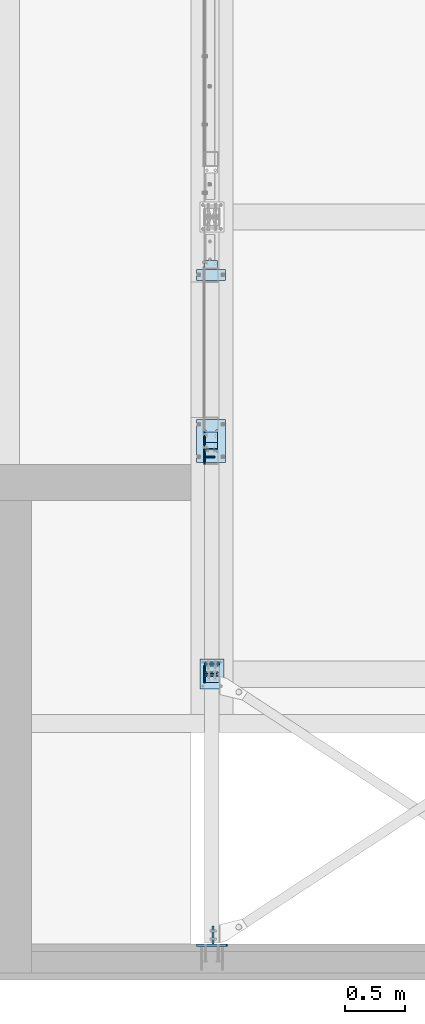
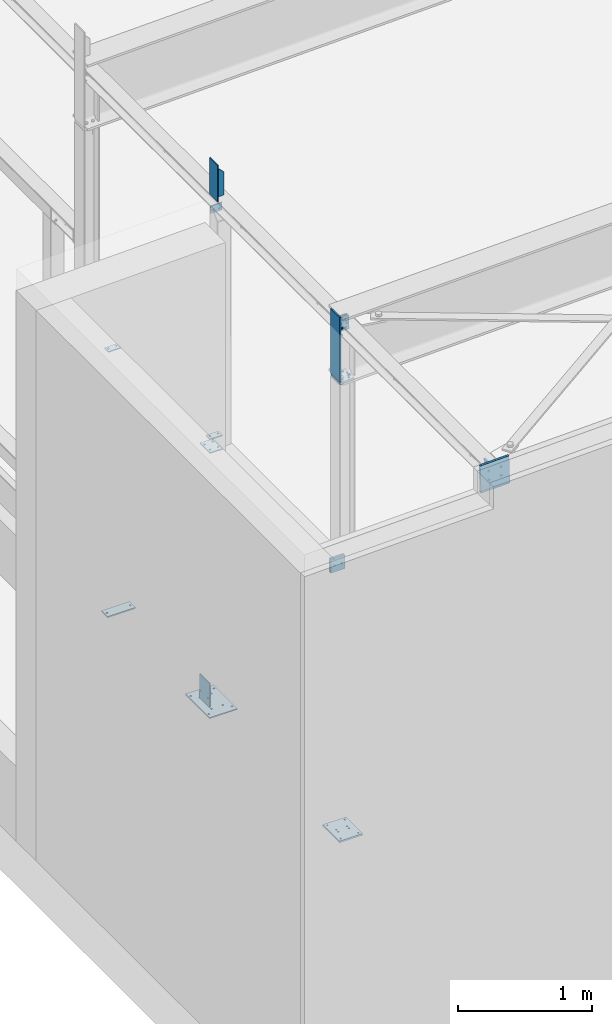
# One storey, part 33 of 476: 18 plates, 66 openings.
"""IFC2X3 building model written with IfcOpenShell, lengths in millimetres."""

from ifc_helpers import new_model, entity, si_unit, converted_unit, frame, frame_2d, origin, origin_with_axes, origin_2d_with_axis, place, context, project, spatial, polyline, circle, outline, extrude, material, layer, layer_set, element, save


model = new_model("IFC2X3")

# Units and contexts
model_context = context("Model", 3, precision=1e-09, world=origin_with_axes())
ifc_project = project(units=[si_unit("LENGTHUNIT", "METRE", prefix="MILLI"), si_unit("AREAUNIT", "SQUARE_METRE"), si_unit("VOLUMEUNIT", "CUBIC_METRE"), converted_unit("PLANEANGLEUNIT", "DEGREE", entity("IfcPlaneAngleMeasure", 0.01745329), si_unit("PLANEANGLEUNIT", "RADIAN"), dimensions=[0, 0, 0, 0, 0, 0, 0])], contexts=[model_context])

# Site, building, storey
site_placement = place(None, origin_with_axes())
site = spatial("IfcSite", under=ifc_project, at=site_placement, Name="mKR Teilneubau & Sanierung BA1 - Ostfildern", CompositionType="ELEMENT")
building_placement = place(site_placement, origin_with_axes())
building = spatial("IfcBuilding", under=site, at=building_placement, Name="Struktur 1", CompositionType="ELEMENT")
storey_placement = place(building_placement, origin_with_axes())
storey = spatial("IfcBuildingStorey", under=building, at=storey_placement, Name="Default Storey", CompositionType="ELEMENT", Elevation=0.0)

# Plate, openings
ifc_material = material(Name="S235JR")
ifc_layer_1 = layer(ifc_material, 10.0)
ifc_layer_set_1 = layer_set([ifc_layer_1], Name="S235JR")
plate_1_placement = place(None, frame((8215.108804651, -19270.674034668, 2969.000035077), z_axis=(0.0, 0.0, -1.0), x_axis=(0.0, -1.0, 0.0)))
plate_1 = element("IfcPlate", 1, at=plate_1_placement, inside=storey, material=ifc_layer_set_1, Name="Endplate", ObjectType="Endplate", context=model_context, shape_type="SweptSolid", body=[
    extrude(outline(polyline([(20.0, 2.5), (80.0, 2.5), (80.0, 109.5), (20.0, 109.5), (20.0, 2.5)])), origin_with_axes(), (0.0, 0.0, -1.0), 10.0),
])
opening_1_placement = place(plate_1_placement, frame((45.0, 56.0, 0.5), z_axis=(0.0, 0.0, -1.0), x_axis=(1.0, 0.0, 0.0)))
element("IfcOpeningElement", 2, at=opening_1_placement, cuts=plate_1, ObjectType="Opening", context=model_context, shape_type="SweptSolid", body=[
    extrude(circle(Radius=6.501, at=frame_2d((0.0, 35.0), x_axis=(1.0, 0.0))), origin(), (0.0, 0.0, 1.0), 11.0),
])
opening_2_placement = place(plate_1_placement, frame((45.0, 56.0, 0.5), z_axis=(0.0, 0.0, -1.0), x_axis=(1.0, 0.0, 0.0)))
element("IfcOpeningElement", 3, at=opening_2_placement, cuts=plate_1, ObjectType="Opening", context=model_context, shape_type="SweptSolid", body=[
    extrude(circle(Radius=6.501, at=frame_2d((0.0, -35.0), x_axis=(1.0, 0.0))), origin(), (0.0, 0.0, 1.0), 11.0),
])

plate_2_placement = place(None, frame((8189.108764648, -19405.674034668, 5412.548814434), z_axis=(0.0, -1.0, 0.0), x_axis=(-1.0, 0.0, 0.0)))
plate_2 = element("IfcPlate", 4, at=plate_2_placement, inside=storey, material=ifc_layer_set_1, Name="-", ObjectType="-", context=model_context, shape_type="SweptSolid", body=[
    extrude(outline(polyline([(0.0, -59.999982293), (80.0, -59.999982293), (80.0, 200.0), (0.0, 197.595559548), (0.0, -59.999982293)])), origin_with_axes(), (0.0, 0.0, 1.0), 10.0),
])
opening_3_placement = place(plate_2_placement, frame((0.0, 0.0, -0.01), z_axis=(0.0, 0.0, 1.0), x_axis=(1.0, 0.0, 0.0)))
element("IfcOpeningElement", 5, at=opening_3_placement, cuts=plate_2, ObjectType="Opening", context=model_context, shape_type="SweptSolid", body=[
    extrude(outline(polyline([(80.0, 200.0), (60.009027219, 199.399161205), (80.0, 180.0), (80.0, 200.0)])), origin(), (0.0, 0.0, 1.0), 10.02),
])
opening_4_placement = place(plate_2_placement, frame((0.0, 0.0, -0.01), z_axis=(0.0, 0.0, 1.0), x_axis=(1.0, 0.0, 0.0)))
element("IfcOpeningElement", 6, at=opening_4_placement, cuts=plate_2, ObjectType="Opening", context=model_context, shape_type="SweptSolid", body=[
    extrude(outline(polyline([(0.0, -59.999982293), (50.0, -59.999982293), (0.0, -9.999982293), (0.0, -59.999982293)])), origin(), (0.0, 0.0, 1.0), 10.02),
])

ifc_layer_2 = layer(ifc_material, 20.0)
ifc_layer_set_2 = layer_set([ifc_layer_2], Name="S235JR")
plate_3_placement = place(None, frame((8038.201761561, -23499.31640625, 5270.428957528), z_axis=(0.0, 1.0, 0.0), x_axis=(0.999548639, 0.0, 0.030041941)))
plate_3 = element("IfcPlate", 7, at=plate_3_placement, inside=storey, material=ifc_layer_set_2, Name="-", ObjectType="-", context=model_context, shape_type="SweptSolid", body=[
    extrude(outline(polyline([(0.0, 0.0), (250.0, 0.0), (250.0, 250.0), (0.0, 250.0), (0.0, 0.0)])), origin_with_axes(), (0.0, 0.0, 1.0), 20.0),
])
opening_5_placement = place(plate_3_placement, frame((72.0, 152.0, 20.5), z_axis=(0.0, 0.0, -1.0), x_axis=(1.0, 0.0, 0.0)))
element("IfcOpeningElement", 8, at=opening_5_placement, cuts=plate_3, ObjectType="Opening", context=model_context, shape_type="SweptSolid", body=[
    extrude(circle(Radius=8.501, at=origin_2d_with_axis()), origin(), (0.0, 0.0, 1.0), 21.0),
])
opening_6_placement = place(plate_3_placement, frame((178.0, 152.0, 20.5), z_axis=(0.0, 0.0, -1.0), x_axis=(1.0, 0.0, 0.0)))
element("IfcOpeningElement", 9, at=opening_6_placement, cuts=plate_3, ObjectType="Opening", context=model_context, shape_type="SweptSolid", body=[
    extrude(circle(Radius=8.501, at=origin_2d_with_axis()), origin(), (0.0, 0.0, 1.0), 21.0),
])
opening_7_placement = place(plate_3_placement, frame((178.0, 72.0, 20.5), z_axis=(0.0, 0.0, -1.0), x_axis=(1.0, 0.0, 0.0)))
element("IfcOpeningElement", 10, at=opening_7_placement, cuts=plate_3, ObjectType="Opening", context=model_context, shape_type="SweptSolid", body=[
    extrude(circle(Radius=8.501, at=origin_2d_with_axis()), origin(), (0.0, 0.0, 1.0), 21.0),
])
opening_8_placement = place(plate_3_placement, frame((72.0, 72.0, 20.5), z_axis=(0.0, 0.0, -1.0), x_axis=(1.0, 0.0, 0.0)))
element("IfcOpeningElement", 11, at=opening_8_placement, cuts=plate_3, ObjectType="Opening", context=model_context, shape_type="SweptSolid", body=[
    extrude(circle(Radius=8.501, at=origin_2d_with_axis()), origin(), (0.0, 0.0, 1.0), 21.0),
])

ifc_layer_3 = layer(ifc_material, 15.0)
ifc_layer_set_3 = layer_set([ifc_layer_3], Name="S235JR")
plate_4_placement = place(None, frame((8183.098028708, -23404.31640625, 5157.744861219), z_axis=(-0.999548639, 0.0, -0.030041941), x_axis=(0.0, -1.0, 0.0)))
plate_4 = element("IfcPlate", 12, at=plate_4_placement, inside=storey, material=ifc_layer_set_3, Name="-", ObjectType="-", context=model_context, shape_type="SweptSolid", body=[
    extrude(outline(polyline([(-75.0, -37.5), (75.0, -37.5), (75.0, 37.5), (-75.0, 37.5), (-75.0, -37.5)])), origin_with_axes(), (0.0, 0.0, 1.0), 15.0),
])
opening_9_placement = place(plate_4_placement, frame((1.0353e-05, 2.166e-06, -0.5), z_axis=(0.0, 0.0, 1.0), x_axis=(1.0, 0.0, 0.0)))
element("IfcOpeningElement", 13, at=opening_9_placement, cuts=plate_4, ObjectType="Opening", context=model_context, shape_type="SweptSolid", body=[
    extrude(circle(Radius=9.001, at=frame_2d((35.0, 0.0), x_axis=(1.0, 0.0))), origin(), (0.0, 0.0, 1.0), 16.0),
])
opening_10_placement = place(plate_4_placement, frame((1.0353e-05, 2.166e-06, -0.5), z_axis=(0.0, 0.0, 1.0), x_axis=(1.0, 0.0, 0.0)))
element("IfcOpeningElement", 14, at=opening_10_placement, cuts=plate_4, ObjectType="Opening", context=model_context, shape_type="SweptSolid", body=[
    extrude(circle(Radius=9.001, at=frame_2d((-35.0, 0.0), x_axis=(1.0, 0.0))), origin(), (0.0, 0.0, 1.0), 16.0),
])

plate_5_placement = place(None, frame((8215.108804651, -19280.674034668, 2855.0), z_axis=(0.0, 0.0, 1.0), x_axis=(0.0, 1.0, 0.0)))
plate_5 = element("IfcPlate", 15, at=plate_5_placement, inside=storey, material=ifc_layer_set_1, Name="Endplate", ObjectType="Endplate", context=model_context, shape_type="SweptSolid", body=[
    extrude(outline(polyline([(-70.0, 2.5), (80.0, 2.5), (80.0, 109.5), (-70.0, 109.5), (-70.0, 2.5)])), origin_with_axes(), (0.0, 0.0, -1.0), 10.0),
])
opening_11_placement = place(plate_5_placement, frame((38.499, 21.0, -10.5), z_axis=(0.0, 0.0, -1.0), x_axis=(-1.0, 0.0, 0.0)))
element("IfcOpeningElement", 16, at=opening_11_placement, cuts=plate_5, ObjectType="Opening", context=model_context, shape_type="SweptSolid", body=[
    extrude(circle(Radius=6.501, at=frame_2d((-6.501, 0.0), x_axis=(1.0, 0.0))), origin(), (0.0, 0.0, -1.0), 11.0),
])
opening_12_placement = place(plate_5_placement, frame((38.499, 91.0, -10.5), z_axis=(0.0, 0.0, -1.0), x_axis=(-1.0, 0.0, 0.0)))
element("IfcOpeningElement", 17, at=opening_12_placement, cuts=plate_5, ObjectType="Opening", context=model_context, shape_type="SweptSolid", body=[
    extrude(circle(Radius=6.501, at=frame_2d((-6.501, 0.0), x_axis=(1.0, 0.0))), origin(), (0.0, 0.0, -1.0), 11.0),
])
opening_13_placement = place(plate_5_placement, frame((-35.0, 56.0, -10.5), z_axis=(0.0, 0.0, 1.0), x_axis=(-1.0, 0.0, 0.0)))
element("IfcOpeningElement", 18, at=opening_13_placement, cuts=plate_5, ObjectType="Opening", context=model_context, shape_type="SweptSolid", body=[
    extrude(circle(Radius=6.501, at=frame_2d((0.0, 35.0), x_axis=(1.0, 0.0))), origin(), (0.0, 0.0, 1.0), 11.0),
])
opening_14_placement = place(plate_5_placement, frame((-35.0, 56.0, -10.5), z_axis=(0.0, 0.0, 1.0), x_axis=(-1.0, 0.0, 0.0)))
element("IfcOpeningElement", 19, at=opening_14_placement, cuts=plate_5, ObjectType="Opening", context=model_context, shape_type="SweptSolid", body=[
    extrude(circle(Radius=6.501, at=frame_2d((0.0, -35.0), x_axis=(1.0, 0.0))), origin(), (0.0, 0.0, 1.0), 11.0),
])

plate_6_placement = place(None, frame((8109.108804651, -19200.674034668, 535.001), z_axis=(-1.0, 0.0, 0.0), x_axis=(0.0, -1.0, 0.0)))
plate_6 = element("IfcPlate", 20, at=plate_6_placement, inside=storey, material=ifc_layer_set_1, Name="-", ObjectType="-", context=model_context, shape_type="SweptSolid", body=[
    extrude(outline(polyline([(0.0, 0.0), (150.0, 0.0), (150.0, 214.999), (0.0, 214.999), (0.0, 0.0)])), origin_with_axes(), (0.0, 0.0, 1.0), 10.0),
])
opening_15_placement = place(plate_6_placement, frame((75.0, 72.999, -0.5), z_axis=(0.0, 0.0, 1.0), x_axis=(1.0, 0.0, 0.0)))
element("IfcOpeningElement", 21, at=opening_15_placement, cuts=plate_6, ObjectType="Opening", context=model_context, shape_type="SweptSolid", body=[
    extrude(circle(Radius=7.001, at=frame_2d((55.0, 0.0), x_axis=(1.0, 0.0))), origin(), (0.0, 0.0, 1.0), 11.0),
])
opening_16_placement = place(plate_6_placement, frame((75.0, 72.999, -0.5), z_axis=(0.0, 0.0, 1.0), x_axis=(1.0, 0.0, 0.0)))
element("IfcOpeningElement", 22, at=opening_16_placement, cuts=plate_6, ObjectType="Opening", context=model_context, shape_type="SweptSolid", body=[
    extrude(circle(Radius=7.001, at=frame_2d((-55.0, 0.0), x_axis=(1.0, 0.0))), origin(), (0.0, 0.0, 1.0), 11.0),
])

# Plate
plate_7_placement = place(None, frame((8109.108764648, -19410.674034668, 5380.048814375), z_axis=(-1.0, 0.0, 0.0), x_axis=(0.0, -1.0, 0.0)))
element("IfcPlate", 23, at=plate_7_placement, inside=storey, material=ifc_layer_set_1, Name="-", ObjectType="-", context=model_context, shape_type="SweptSolid", body=[
    extrude(outline(polyline([(-60.0, -167.5), (60.0, -167.5), (60.0, 167.5), (-60.0, 167.5), (-60.0, -167.5)])), origin_with_axes(), (0.0, 0.0, 1.0), 10.0),
])

# Plate, openings
plate_8_placement = place(None, frame((8209.108804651, -19350.674034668, 5101.502887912), z_axis=(0.0, 1.0, 0.0), x_axis=(0.0, 0.0, -1.0)))
plate_8 = element("IfcPlate", 24, at=plate_8_placement, inside=storey, material=ifc_layer_set_1, Name="-", ObjectType="-", context=model_context, shape_type="SweptSolid", body=[
    extrude(outline(polyline([(0.0, 0.0), (70.0, 0.0), (70.0, 100.0), (3.005550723, 100.0), (0.0, 0.0)])), origin_with_axes(), (0.0, 0.0, 1.0), 10.0),
])
opening_17_placement = place(plate_8_placement, frame((45.0, 50.0, -0.5), z_axis=(0.0, 0.0, 1.0), x_axis=(0.0, 1.0, 0.0)))
element("IfcOpeningElement", 25, at=opening_17_placement, cuts=plate_8, ObjectType="Opening", context=model_context, shape_type="SweptSolid", body=[
    extrude(circle(Radius=7.001, at=frame_2d((25.0, 0.0), x_axis=(1.0, 0.0))), origin(), (0.0, 0.0, 1.0), 11.0),
])
opening_18_placement = place(plate_8_placement, frame((45.0, 50.0, -0.5), z_axis=(0.0, 0.0, 1.0), x_axis=(0.0, 1.0, 0.0)))
element("IfcOpeningElement", 26, at=opening_18_placement, cuts=plate_8, ObjectType="Opening", context=model_context, shape_type="SweptSolid", body=[
    extrude(circle(Radius=7.001, at=frame_2d((-25.0, 0.0), x_axis=(1.0, 0.0))), origin(), (0.0, 0.0, 1.0), 11.0),
])

plate_9_placement = place(None, frame((8265.608764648, -21100.67387897, 540.0), z_axis=(0.0, 0.0, -1.0), x_axis=(0.0, -1.0, 0.0)))
plate_9 = element("IfcPlate", 27, at=plate_9_placement, inside=storey, material=ifc_layer_set_3, Name="Baseplate", ObjectType="Baseplate", context=model_context, shape_type="SweptSolid", body=[
    extrude(outline(polyline([(0.0, 0.0), (250.0, 0.0), (250.0, 200.0), (0.0, 200.0), (0.0, 0.0)])), origin_with_axes(), (0.0, 0.0, 1.0), 15.0),
])
opening_19_placement = place(plate_9_placement, frame((110.25, 146.0, 15.5), z_axis=(0.0, 0.0, -1.0), x_axis=(0.0, -1.0, 0.0)))
element("IfcOpeningElement", 28, at=opening_19_placement, cuts=plate_9, ObjectType="Opening", context=model_context, shape_type="SweptSolid", body=[
    extrude(circle(Radius=6.001, at=origin_2d_with_axis()), origin(), (0.0, 0.0, 1.0), 16.0),
])
opening_20_placement = place(plate_9_placement, frame((110.25, 54.0, 15.5), z_axis=(0.0, 0.0, -1.0), x_axis=(0.0, -1.0, 0.0)))
element("IfcOpeningElement", 29, at=opening_20_placement, cuts=plate_9, ObjectType="Opening", context=model_context, shape_type="SweptSolid", body=[
    extrude(circle(Radius=6.001, at=origin_2d_with_axis()), origin(), (0.0, 0.0, 1.0), 16.0),
])
opening_21_placement = place(plate_9_placement, frame((139.75, 54.0, 15.5), z_axis=(0.0, 0.0, -1.0), x_axis=(0.0, -1.0, 0.0)))
element("IfcOpeningElement", 30, at=opening_21_placement, cuts=plate_9, ObjectType="Opening", context=model_context, shape_type="SweptSolid", body=[
    extrude(circle(Radius=6.001, at=origin_2d_with_axis()), origin(), (0.0, 0.0, 1.0), 16.0),
])
opening_22_placement = place(plate_9_placement, frame((139.75, 146.0, 15.5), z_axis=(0.0, 0.0, -1.0), x_axis=(0.0, -1.0, 0.0)))
element("IfcOpeningElement", 31, at=opening_22_placement, cuts=plate_9, ObjectType="Opening", context=model_context, shape_type="SweptSolid", body=[
    extrude(circle(Radius=6.001, at=origin_2d_with_axis()), origin(), (0.0, 0.0, 1.0), 16.0),
])
opening_23_placement = place(plate_9_placement, frame((125.0, 100.0, 15.5), z_axis=(0.0, 0.0, -1.0), x_axis=(1.0, 0.0, 0.0)))
element("IfcOpeningElement", 32, at=opening_23_placement, cuts=plate_9, ObjectType="Opening", context=model_context, shape_type="SweptSolid", body=[
    extrude(circle(Radius=6.001, at=frame_2d((100.0, 75.0), x_axis=(1.0, 0.0))), origin(), (0.0, 0.0, 1.0), 16.0),
])
opening_24_placement = place(plate_9_placement, frame((125.0, 100.0, 15.5), z_axis=(0.0, 0.0, -1.0), x_axis=(1.0, 0.0, 0.0)))
element("IfcOpeningElement", 33, at=opening_24_placement, cuts=plate_9, ObjectType="Opening", context=model_context, shape_type="SweptSolid", body=[
    extrude(circle(Radius=6.001, at=frame_2d((-100.0, 75.0), x_axis=(1.0, 0.0))), origin(), (0.0, 0.0, 1.0), 16.0),
])
opening_25_placement = place(plate_9_placement, frame((125.0, 100.0, 15.5), z_axis=(0.0, 0.0, -1.0), x_axis=(1.0, 0.0, 0.0)))
element("IfcOpeningElement", 34, at=opening_25_placement, cuts=plate_9, ObjectType="Opening", context=model_context, shape_type="SweptSolid", body=[
    extrude(circle(Radius=6.001, at=frame_2d((100.0, -75.0), x_axis=(1.0, 0.0))), origin(), (0.0, 0.0, 1.0), 16.0),
])
opening_26_placement = place(plate_9_placement, frame((125.0, 100.0, 15.5), z_axis=(0.0, 0.0, -1.0), x_axis=(1.0, 0.0, 0.0)))
element("IfcOpeningElement", 35, at=opening_26_placement, cuts=plate_9, ObjectType="Opening", context=model_context, shape_type="SweptSolid", body=[
    extrude(circle(Radius=6.001, at=frame_2d((-100.0, -75.0), x_axis=(1.0, 0.0))), origin(), (0.0, 0.0, 1.0), 16.0),
])

plate_10_placement = place(None, frame((8039.108804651, -17935.672034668, 525.0), z_axis=(0.0, 0.0, -1.0), x_axis=(0.0, 1.0, 0.0)))
plate_10 = element("IfcPlate", 36, at=plate_10_placement, inside=storey, material=ifc_layer_set_1, Name="Baseplate", ObjectType="Baseplate", context=model_context, shape_type="SweptSolid", body=[
    extrude(outline(polyline([(0.0, 0.0), (90.0, 0.0), (90.0, 240.0), (0.0, 240.0), (0.0, 0.0)])), origin_with_axes(), (0.0, 0.0, 1.0), 10.0),
])
opening_27_placement = place(plate_10_placement, frame((45.0, 120.0, 10.5), z_axis=(0.0, 0.0, -1.0), x_axis=(1.0, 0.0, 0.0)))
element("IfcOpeningElement", 37, at=opening_27_placement, cuts=plate_10, ObjectType="Opening", context=model_context, shape_type="SweptSolid", body=[
    extrude(circle(Radius=7.001, at=frame_2d((0.0, 100.0), x_axis=(1.0, 0.0))), origin(), (0.0, 0.0, 1.0), 11.0),
])
opening_28_placement = place(plate_10_placement, frame((45.0, 120.0, 10.5), z_axis=(0.0, 0.0, -1.0), x_axis=(1.0, 0.0, 0.0)))
element("IfcOpeningElement", 38, at=opening_28_placement, cuts=plate_10, ObjectType="Opening", context=model_context, shape_type="SweptSolid", body=[
    extrude(circle(Radius=7.001, at=frame_2d((0.0, -100.0), x_axis=(1.0, 0.0))), origin(), (0.0, 0.0, 1.0), 11.0),
])

plate_11_placement = place(None, frame((8039.108804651, -19185.674034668, 525.0), z_axis=(0.0, 0.0, -1.0), x_axis=(0.0, 1.0, 0.0)))
plate_11 = element("IfcPlate", 39, at=plate_11_placement, inside=storey, material=ifc_layer_set_1, Name="Baseplate", ObjectType="Baseplate", context=model_context, shape_type="SweptSolid", body=[
    extrude(outline(polyline([(-270.0, 0.0), (90.0, 0.0), (90.0, 240.0), (-270.0, 240.0), (-270.0, 0.0)])), origin_with_axes(), (0.0, 0.0, 1.0), 10.0),
])
opening_29_placement = place(plate_11_placement, frame((45.0, 120.0, 10.5), z_axis=(0.0, 0.0, -1.0), x_axis=(1.0, 0.0, 0.0)))
element("IfcOpeningElement", 40, at=opening_29_placement, cuts=plate_11, ObjectType="Opening", context=model_context, shape_type="SweptSolid", body=[
    extrude(circle(Radius=7.001, at=frame_2d((0.0, 100.0), x_axis=(1.0, 0.0))), origin(), (0.0, 0.0, 1.0), 11.0),
])
opening_30_placement = place(plate_11_placement, frame((45.0, 120.0, 10.5), z_axis=(0.0, 0.0, -1.0), x_axis=(1.0, 0.0, 0.0)))
element("IfcOpeningElement", 41, at=opening_30_placement, cuts=plate_11, ObjectType="Opening", context=model_context, shape_type="SweptSolid", body=[
    extrude(circle(Radius=7.001, at=frame_2d((0.0, -100.0), x_axis=(1.0, 0.0))), origin(), (0.0, 0.0, 1.0), 11.0),
])
opening_31_placement = place(plate_11_placement, frame((-217.999, 20.0, 10.5), z_axis=(0.0, 0.0, 1.0), x_axis=(1.0, 0.0, 0.0)))
element("IfcOpeningElement", 42, at=opening_31_placement, cuts=plate_11, ObjectType="Opening", context=model_context, shape_type="SweptSolid", body=[
    extrude(circle(Radius=7.001, at=frame_2d((-7.001, 0.0), x_axis=(1.0, 0.0))), origin(), (0.0, 0.0, -1.0), 11.0),
])
opening_32_placement = place(plate_11_placement, frame((-217.999, 220.0, 10.5), z_axis=(0.0, 0.0, 1.0), x_axis=(1.0, 0.0, 0.0)))
element("IfcOpeningElement", 43, at=opening_32_placement, cuts=plate_11, ObjectType="Opening", context=model_context, shape_type="SweptSolid", body=[
    extrude(circle(Radius=7.001, at=frame_2d((-7.001, 0.0), x_axis=(1.0, 0.0))), origin(), (0.0, 0.0, -1.0), 11.0),
])
opening_33_placement = place(plate_11_placement, frame((-7.0, 68.0, 10.5), z_axis=(0.0, 0.0, -1.0), x_axis=(0.0, -1.0, 0.0)))
element("IfcOpeningElement", 44, at=opening_33_placement, cuts=plate_11, ObjectType="Opening", context=model_context, shape_type="SweptSolid", body=[
    extrude(circle(Radius=7.001, at=frame_2d((-3.0, -3.0), x_axis=(1.0, 0.0))), origin(), (0.0, 0.0, 1.0), 11.0),
])
opening_34_placement = place(plate_11_placement, frame((-7.0, 172.0, 10.5), z_axis=(0.0, 0.0, -1.0), x_axis=(0.0, -1.0, 0.0)))
element("IfcOpeningElement", 45, at=opening_34_placement, cuts=plate_11, ObjectType="Opening", context=model_context, shape_type="SweptSolid", body=[
    extrude(circle(Radius=7.001, at=frame_2d((3.0, -3.0), x_axis=(1.0, 0.0))), origin(), (0.0, 0.0, 1.0), 11.0),
])
opening_35_placement = place(plate_11_placement, frame((-173.0, 172.0, 10.5), z_axis=(0.0, 0.0, -1.0), x_axis=(0.0, -1.0, 0.0)))
element("IfcOpeningElement", 46, at=opening_35_placement, cuts=plate_11, ObjectType="Opening", context=model_context, shape_type="SweptSolid", body=[
    extrude(circle(Radius=7.001, at=frame_2d((3.0, 3.0), x_axis=(1.0, 0.0))), origin(), (0.0, 0.0, 1.0), 11.0),
])
opening_36_placement = place(plate_11_placement, frame((-173.0, 68.0, 10.5), z_axis=(0.0, 0.0, -1.0), x_axis=(0.0, -1.0, 0.0)))
element("IfcOpeningElement", 47, at=opening_36_placement, cuts=plate_11, ObjectType="Opening", context=model_context, shape_type="SweptSolid", body=[
    extrude(circle(Radius=7.001, at=frame_2d((-3.0, 3.0), x_axis=(1.0, 0.0))), origin(), (0.0, 0.0, 1.0), 11.0),
])

plate_12_placement = place(None, frame((8165.608780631, -21125.67387897, 2912.000017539), z_axis=(0.0, -1.0, 0.0), x_axis=(0.0, 0.0, -1.0)))
plate_12 = element("IfcPlate", 48, at=plate_12_placement, inside=storey, material=ifc_layer_set_3, Name="Endplate#1", ObjectType="Endplate#1", context=model_context, shape_type="SweptSolid", body=[
    extrude(outline(polyline([(-62.0, -62.0), (62.0, -62.0), (62.0, 62.0), (-62.0, 62.0), (-62.0, -62.0)])), origin_with_axes(), (0.0, 0.0, 1.0), 15.0),
])
opening_37_placement = place(plate_12_placement, frame((37.0, -14.5, 15.5), z_axis=(0.0, 0.0, -1.0), x_axis=(1.0, 0.0, 0.0)))
element("IfcOpeningElement", 49, at=opening_37_placement, cuts=plate_12, ObjectType="Opening", context=model_context, shape_type="SweptSolid", body=[
    extrude(circle(Radius=6.001, at=origin_2d_with_axis()), origin(), (0.0, 0.0, 1.0), 16.0),
])
opening_38_placement = place(plate_12_placement, frame((-37.0, -14.5, 15.5), z_axis=(0.0, 0.0, -1.0), x_axis=(1.0, 0.0, 0.0)))
element("IfcOpeningElement", 50, at=opening_38_placement, cuts=plate_12, ObjectType="Opening", context=model_context, shape_type="SweptSolid", body=[
    extrude(circle(Radius=6.001, at=origin_2d_with_axis()), origin(), (0.0, 0.0, 1.0), 16.0),
])
opening_39_placement = place(plate_12_placement, frame((-37.0, 14.5, 15.5), z_axis=(0.0, 0.0, -1.0), x_axis=(1.0, 0.0, 0.0)))
element("IfcOpeningElement", 51, at=opening_39_placement, cuts=plate_12, ObjectType="Opening", context=model_context, shape_type="SweptSolid", body=[
    extrude(circle(Radius=6.001, at=origin_2d_with_axis()), origin(), (0.0, 0.0, 1.0), 16.0),
])
opening_40_placement = place(plate_12_placement, frame((37.0, 14.5, 15.5), z_axis=(0.0, 0.0, -1.0), x_axis=(1.0, 0.0, 0.0)))
element("IfcOpeningElement", 52, at=opening_40_placement, cuts=plate_12, ObjectType="Opening", context=model_context, shape_type="SweptSolid", body=[
    extrude(circle(Radius=6.001, at=origin_2d_with_axis()), origin(), (0.0, 0.0, 1.0), 16.0),
])
opening_41_placement = place(plate_12_placement, frame((0.0, 30.0, 15.5), z_axis=(0.0, 0.0, -1.0), x_axis=(-1.0, 0.0, 0.0)))
element("IfcOpeningElement", 53, at=opening_41_placement, cuts=plate_12, ObjectType="Opening", context=model_context, shape_type="SweptSolid", body=[
    extrude(circle(Radius=7.001, at=origin_2d_with_axis()), origin(), (0.0, 0.0, 1.0), 16.0),
])
opening_42_placement = place(plate_12_placement, frame((0.0, -30.0, 15.5), z_axis=(0.0, 0.0, -1.0), x_axis=(0.0, -1.0, 0.0)))
element("IfcOpeningElement", 54, at=opening_42_placement, cuts=plate_12, ObjectType="Opening", context=model_context, shape_type="SweptSolid", body=[
    extrude(circle(Radius=7.001, at=origin_2d_with_axis()), origin(), (0.0, 0.0, 1.0), 16.0),
])

plate_13_placement = place(None, frame((8165.608764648, -21155.67387897, 2912.000017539), z_axis=(0.0, 1.0, 0.0), x_axis=(1.0, 0.0, 0.0)))
plate_13 = element("IfcPlate", 55, at=plate_13_placement, inside=storey, material=ifc_layer_set_3, Name="T-plate", ObjectType="T-plate", context=model_context, shape_type="SweptSolid", body=[
    extrude(outline(polyline([(-62.0, -62.0), (62.0, -62.0), (62.0, 62.0), (-62.0, 62.0), (-62.0, -62.0)])), origin_with_axes(), (0.0, 0.0, 1.0), 15.0),
])
opening_43_placement = place(plate_13_placement, frame((30.000015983, 0.0, -0.5), z_axis=(0.0, 0.0, 1.0), x_axis=(0.0, -1.0, 0.0)))
element("IfcOpeningElement", 56, at=opening_43_placement, cuts=plate_13, ObjectType="Opening", context=model_context, shape_type="SweptSolid", body=[
    extrude(circle(Radius=7.001, at=origin_2d_with_axis()), origin(), (0.0, 0.0, 1.0), 16.0),
])
opening_44_placement = place(plate_13_placement, frame((-29.999984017, 0.0, -0.5), z_axis=(0.0, 0.0, 1.0), x_axis=(-1.0, 0.0, 0.0)))
element("IfcOpeningElement", 57, at=opening_44_placement, cuts=plate_13, ObjectType="Opening", context=model_context, shape_type="SweptSolid", body=[
    extrude(circle(Radius=7.001, at=origin_2d_with_axis()), origin(), (0.0, 0.0, 1.0), 16.0),
])

# Plate
plate_14_placement = place(None, frame((8109.108764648, -21155.67387897, 4677.27785786), z_axis=(-1.0, 0.0, 0.0), x_axis=(0.0, -1.0, 0.0)))
element("IfcPlate", 58, at=plate_14_placement, inside=storey, material=ifc_layer_set_1, Name="Coverplate", ObjectType="Coverplate", context=model_context, shape_type="SweptSolid", body=[
    extrude(outline(polyline([(0.0, 0.0), (140.0, 0.0), (140.0, 590.270938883), (0.0, 590.270938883), (0.0, 0.0)])), origin_with_axes(), (0.0, 0.0, 1.0), 10.0),
])

# Plate, openings
plate_15_placement = place(None, frame((8104.106507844, -21155.67387897, 4652.118481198), z_axis=(-0.030041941, 0.0, 0.999548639), x_axis=(0.0, -1.0, 0.0)))
plate_15 = element("IfcPlate", 59, at=plate_15_placement, inside=storey, material=ifc_layer_set_2, Name="Endplate", ObjectType="Endplate", context=model_context, shape_type="SweptSolid", body=[
    extrude(outline(polyline([(0.0, 0.0), (140.0, 0.0), (140.0, 123.060058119), (0.0, 123.060058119), (0.0, 0.0)])), origin_with_axes(), (0.0, 0.0, 1.0), 20.0),
])
opening_45_placement = place(plate_15_placement, frame((55.25, 15.503838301, 20.5), z_axis=(0.0, 0.0, -1.0), x_axis=(0.0, -1.0, 0.0)))
element("IfcOpeningElement", 60, at=opening_45_placement, cuts=plate_15, ObjectType="Opening", context=model_context, shape_type="SweptSolid", body=[
    extrude(circle(Radius=6.001, at=origin_2d_with_axis()), origin(), (0.0, 0.0, 1.0), 21.0),
])
opening_46_placement = place(plate_15_placement, frame((55.25, 107.556219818, 20.5), z_axis=(0.0, 0.0, -1.0), x_axis=(0.0, -1.0, 0.0)))
element("IfcOpeningElement", 61, at=opening_46_placement, cuts=plate_15, ObjectType="Opening", context=model_context, shape_type="SweptSolid", body=[
    extrude(circle(Radius=6.001, at=origin_2d_with_axis()), origin(), (0.0, 0.0, 1.0), 21.0),
])
opening_47_placement = place(plate_15_placement, frame((84.75, 107.556219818, 20.5), z_axis=(0.0, 0.0, -1.0), x_axis=(0.0, -1.0, 0.0)))
element("IfcOpeningElement", 62, at=opening_47_placement, cuts=plate_15, ObjectType="Opening", context=model_context, shape_type="SweptSolid", body=[
    extrude(circle(Radius=6.001, at=origin_2d_with_axis()), origin(), (0.0, 0.0, 1.0), 21.0),
])
opening_48_placement = place(plate_15_placement, frame((84.75, 15.503838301, 20.5), z_axis=(0.0, 0.0, -1.0), x_axis=(0.0, -1.0, 0.0)))
element("IfcOpeningElement", 63, at=opening_48_placement, cuts=plate_15, ObjectType="Opening", context=model_context, shape_type="SweptSolid", body=[
    extrude(circle(Radius=6.001, at=origin_2d_with_axis()), origin(), (0.0, 0.0, 1.0), 21.0),
])
opening_49_placement = place(plate_15_placement, frame((17.999, 34.03, -0.5), z_axis=(0.0, 0.0, -1.0), x_axis=(-1.0, 0.0, 0.0)))
element("IfcOpeningElement", 64, at=opening_49_placement, cuts=plate_15, ObjectType="Opening", context=model_context, shape_type="SweptSolid", body=[
    extrude(circle(Radius=7.001, at=frame_2d((-7.001, 0.0), x_axis=(1.0, 0.0))), origin(), (0.0, 0.0, -1.0), 21.0),
])
opening_50_placement = place(plate_15_placement, frame((17.999, 89.03, -0.5), z_axis=(0.0, 0.0, -1.0), x_axis=(-1.0, 0.0, 0.0)))
element("IfcOpeningElement", 65, at=opening_50_placement, cuts=plate_15, ObjectType="Opening", context=model_context, shape_type="SweptSolid", body=[
    extrude(circle(Radius=7.001, at=frame_2d((-7.001, 0.0), x_axis=(1.0, 0.0))), origin(), (0.0, 0.0, -1.0), 21.0),
])
opening_51_placement = place(plate_15_placement, frame((107.999, 89.03, -0.5), z_axis=(0.0, 0.0, -1.0), x_axis=(-1.0, 0.0, 0.0)))
element("IfcOpeningElement", 66, at=opening_51_placement, cuts=plate_15, ObjectType="Opening", context=model_context, shape_type="SweptSolid", body=[
    extrude(circle(Radius=7.001, at=frame_2d((-7.001, 0.0), x_axis=(1.0, 0.0))), origin(), (0.0, 0.0, -1.0), 21.0),
])
opening_52_placement = place(plate_15_placement, frame((107.999, 34.03, -0.5), z_axis=(0.0, 0.0, -1.0), x_axis=(-1.0, 0.0, 0.0)))
element("IfcOpeningElement", 67, at=opening_52_placement, cuts=plate_15, ObjectType="Opening", context=model_context, shape_type="SweptSolid", body=[
    extrude(circle(Radius=7.001, at=frame_2d((-7.001, 0.0), x_axis=(1.0, 0.0))), origin(), (0.0, 0.0, -1.0), 21.0),
])

ifc_layer_4 = layer(ifc_material, 12.0)
ifc_layer_set_4 = layer_set([ifc_layer_4], Name="S235JR")
plate_16_placement = place(None, frame((8118.766491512, -21219.67387897, 5217.841340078), z_axis=(0.0, 1.0, 0.0), x_axis=(0.999548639, 0.0, 0.030041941)))
plate_16 = element("IfcPlate", 68, at=plate_16_placement, inside=storey, material=ifc_layer_set_4, Name="Endplate", ObjectType="Endplate", context=model_context, shape_type="SweptSolid", body=[
    extrude(outline(polyline([(0.0, 0.0), (90.0, 0.0), (90.0, 124.0), (0.0, 124.0), (0.0, 0.0)])), origin_with_axes(), (0.0, 0.0, 1.0), 12.0),
])
opening_53_placement = place(plate_16_placement, frame((70.0, 62.0, -0.5), z_axis=(0.0, 0.0, 1.0), x_axis=(0.0, -1.0, 0.0)))
element("IfcOpeningElement", 69, at=opening_53_placement, cuts=plate_16, ObjectType="Opening", context=model_context, shape_type="SweptSolid", body=[
    extrude(circle(Radius=7.001, at=origin_2d_with_axis()), origin(), (0.0, 0.0, 1.0), 13.0),
])
opening_54_placement = place(plate_16_placement, frame((20.0, 62.0, -0.5), z_axis=(0.0, 0.0, 1.0), x_axis=(0.0, -1.0, 0.0)))
element("IfcOpeningElement", 70, at=opening_54_placement, cuts=plate_16, ObjectType="Opening", context=model_context, shape_type="SweptSolid", body=[
    extrude(circle(Radius=7.001, at=origin_2d_with_axis()), origin(), (0.0, 0.0, 1.0), 13.0),
])
opening_55_placement = place(plate_16_placement, frame((30.5, 99.0, -0.5), z_axis=(0.0, 0.0, 1.0), x_axis=(0.0, 1.0, 0.0)))
element("IfcOpeningElement", 71, at=opening_55_placement, cuts=plate_16, ObjectType="Opening", context=model_context, shape_type="SweptSolid", body=[
    extrude(circle(Radius=6.001, at=origin_2d_with_axis()), origin(), (0.0, 0.0, 1.0), 13.0),
])
opening_56_placement = place(plate_16_placement, frame((30.5, 25.0, -0.5), z_axis=(0.0, 0.0, 1.0), x_axis=(0.0, 1.0, 0.0)))
element("IfcOpeningElement", 72, at=opening_56_placement, cuts=plate_16, ObjectType="Opening", context=model_context, shape_type="SweptSolid", body=[
    extrude(circle(Radius=6.001, at=origin_2d_with_axis()), origin(), (0.0, 0.0, 1.0), 13.0),
])
opening_57_placement = place(plate_16_placement, frame((59.5, 25.0, -0.5), z_axis=(0.0, 0.0, 1.0), x_axis=(0.0, 1.0, 0.0)))
element("IfcOpeningElement", 73, at=opening_57_placement, cuts=plate_16, ObjectType="Opening", context=model_context, shape_type="SweptSolid", body=[
    extrude(circle(Radius=6.001, at=origin_2d_with_axis()), origin(), (0.0, 0.0, 1.0), 13.0),
])
opening_58_placement = place(plate_16_placement, frame((59.5, 99.0, -0.5), z_axis=(0.0, 0.0, 1.0), x_axis=(0.0, 1.0, 0.0)))
element("IfcOpeningElement", 74, at=opening_58_placement, cuts=plate_16, ObjectType="Opening", context=model_context, shape_type="SweptSolid", body=[
    extrude(circle(Radius=6.001, at=origin_2d_with_axis()), origin(), (0.0, 0.0, 1.0), 13.0),
])

plate_17_placement = place(None, frame((8208.725869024, -21231.67387897, 5220.545114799), z_axis=(0.0, -1.0, 0.0), x_axis=(-0.999548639, 0.0, -0.030041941)))
plate_17 = element("IfcPlate", 75, at=plate_17_placement, inside=storey, material=ifc_layer_set_4, Name="Endplate", ObjectType="Endplate", context=model_context, shape_type="SweptSolid", body=[
    extrude(outline(polyline([(0.0, 0.0), (90.0, 0.0), (90.0, 124.0), (0.0, 124.0), (0.0, 0.0)])), origin_with_axes(), (0.0, 0.0, 1.0), 12.0),
])
opening_59_placement = place(plate_17_placement, frame((20.0, 62.0, 12.5), z_axis=(0.0, 0.0, -1.0), x_axis=(0.0, -1.0, 0.0)))
element("IfcOpeningElement", 76, at=opening_59_placement, cuts=plate_17, ObjectType="Opening", context=model_context, shape_type="SweptSolid", body=[
    extrude(circle(Radius=7.001, at=origin_2d_with_axis()), origin(), (0.0, 0.0, 1.0), 13.0),
])
opening_60_placement = place(plate_17_placement, frame((70.0, 62.0, 12.5), z_axis=(0.0, 0.0, -1.0), x_axis=(0.0, -1.0, 0.0)))
element("IfcOpeningElement", 77, at=opening_60_placement, cuts=plate_17, ObjectType="Opening", context=model_context, shape_type="SweptSolid", body=[
    extrude(circle(Radius=7.001, at=origin_2d_with_axis()), origin(), (0.0, 0.0, 1.0), 13.0),
])
opening_61_placement = place(plate_17_placement, frame((59.5, 99.0, -0.5), z_axis=(0.0, 0.0, 1.0), x_axis=(0.0, -1.0, 0.0)))
element("IfcOpeningElement", 78, at=opening_61_placement, cuts=plate_17, ObjectType="Opening", context=model_context, shape_type="SweptSolid", body=[
    extrude(circle(Radius=6.001, at=origin_2d_with_axis()), origin(), (0.0, 0.0, 1.0), 13.0),
])
opening_62_placement = place(plate_17_placement, frame((59.5, 25.0, -0.5), z_axis=(0.0, 0.0, 1.0), x_axis=(0.0, -1.0, 0.0)))
element("IfcOpeningElement", 79, at=opening_62_placement, cuts=plate_17, ObjectType="Opening", context=model_context, shape_type="SweptSolid", body=[
    extrude(circle(Radius=6.001, at=origin_2d_with_axis()), origin(), (0.0, 0.0, 1.0), 13.0),
])
opening_63_placement = place(plate_17_placement, frame((30.5, 25.0, -0.5), z_axis=(0.0, 0.0, 1.0), x_axis=(0.0, -1.0, 0.0)))
element("IfcOpeningElement", 80, at=opening_63_placement, cuts=plate_17, ObjectType="Opening", context=model_context, shape_type="SweptSolid", body=[
    extrude(circle(Radius=6.001, at=origin_2d_with_axis()), origin(), (0.0, 0.0, 1.0), 13.0),
])
opening_64_placement = place(plate_17_placement, frame((30.5, 99.0, -0.5), z_axis=(0.0, 0.0, 1.0), x_axis=(0.0, -1.0, 0.0)))
element("IfcOpeningElement", 81, at=opening_64_placement, cuts=plate_17, ObjectType="Opening", context=model_context, shape_type="SweptSolid", body=[
    extrude(circle(Radius=6.001, at=origin_2d_with_axis()), origin(), (0.0, 0.0, 1.0), 13.0),
])

plate_18_placement = place(None, frame((8215.108804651, -17750.672034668, 2855.0), z_axis=(0.0, 0.0, -1.0), x_axis=(0.0, -1.0, 0.0)))
plate_18 = element("IfcPlate", 82, at=plate_18_placement, inside=storey, material=ifc_layer_set_1, Name="Endplate", ObjectType="Endplate", context=model_context, shape_type="SweptSolid", body=[
    extrude(outline(polyline([(20.0, 2.5), (80.0, 2.5), (80.0, 109.5), (20.0, 109.5), (20.0, 2.5)])), origin_with_axes(), (0.0, 0.0, 1.0), 10.0),
])
opening_65_placement = place(plate_18_placement, frame((45.0, 56.0, 10.5), z_axis=(0.0, 0.0, -1.0), x_axis=(1.0, 0.0, 0.0)))
element("IfcOpeningElement", 83, at=opening_65_placement, cuts=plate_18, ObjectType="Opening", context=model_context, shape_type="SweptSolid", body=[
    extrude(circle(Radius=6.501, at=frame_2d((0.0, 35.0), x_axis=(1.0, 0.0))), origin(), (0.0, 0.0, 1.0), 11.0),
])
opening_66_placement = place(plate_18_placement, frame((45.0, 56.0, 10.5), z_axis=(0.0, 0.0, -1.0), x_axis=(1.0, 0.0, 0.0)))
element("IfcOpeningElement", 84, at=opening_66_placement, cuts=plate_18, ObjectType="Opening", context=model_context, shape_type="SweptSolid", body=[
    extrude(circle(Radius=6.501, at=frame_2d((0.0, -35.0), x_axis=(1.0, 0.0))), origin(), (0.0, 0.0, 1.0), 11.0),
])

save(model, "model.ifc")
